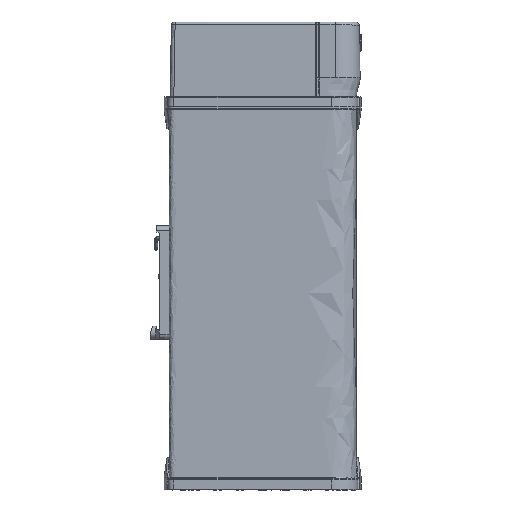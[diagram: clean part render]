
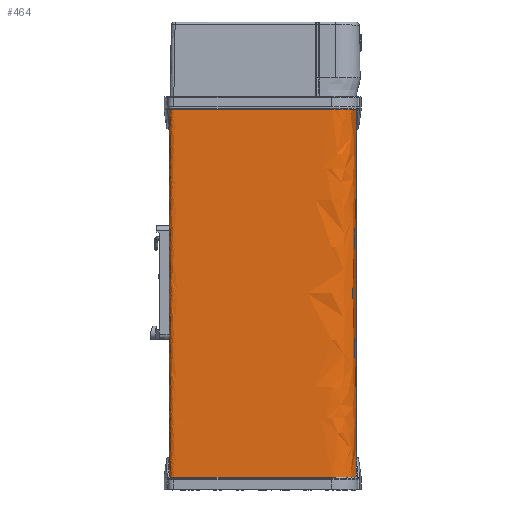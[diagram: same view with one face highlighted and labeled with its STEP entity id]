
A CAD part, left-side view. The second image highlights one B-rep face of the part: STEP entity #464.
In plain terms, the highlighted free-form (B-spline) face has degree [3, 1] with [22, 2] control points.
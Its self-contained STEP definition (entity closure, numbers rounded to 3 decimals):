
#464=ADVANCED_FACE('',(#1716),#19415,.T.);
#1716=FACE_OUTER_BOUND('',#2980,.T.);
#2980=EDGE_LOOP('',(#5492,#5493,#5494,#5495));
#5492=ORIENTED_EDGE('',*,*,#10912,.T.);
#5493=ORIENTED_EDGE('',*,*,#10880,.T.);
#5494=ORIENTED_EDGE('',*,*,#10881,.T.);
#5495=ORIENTED_EDGE('',*,*,#10903,.F.);
#10880=EDGE_CURVE('',#17228,#17229,#15470,.T.);
#10881=EDGE_CURVE('',#17229,#17240,#13748,.T.);
#10903=EDGE_CURVE('',#17239,#17240,#15483,.T.);
#10912=EDGE_CURVE('',#17239,#17228,#13760,.T.);
#13748=B_SPLINE_CURVE_WITH_KNOTS('',1,(#29648,#29649),.UNSPECIFIED.,.F.,
 .F.,(2,2),(-200.,-50.2),.UNSPECIFIED.);
#13760=B_SPLINE_CURVE_WITH_KNOTS('',1,(#29940,#29941),.UNSPECIFIED.,.F.,
 .F.,(2,2),(50.2,200.),.UNSPECIFIED.);
#15470=(
BOUNDED_CURVE()
B_SPLINE_CURVE(3,(#29626,#29627,#29628,#29629,#29630,#29631,#29632,#29633,
#29634,#29635,#29636,#29637,#29638,#29639,#29640,#29641,#29642,#29643,#29644,
#29645,#29646,#29647),.UNSPECIFIED.,.F.,.F.)
B_SPLINE_CURVE_WITH_KNOTS((4,3,3,3,3,3,3,4),(134.436,148.636,
164.344,227.344,230.486,252.686,253.157,
253.452),.UNSPECIFIED.)
CURVE()
GEOMETRIC_REPRESENTATION_ITEM()
RATIONAL_B_SPLINE_CURVE((1.,1.,1.,1.,0.805,0.805,
1.,1.,1.,1.,0.805,0.805,1.,1.,1.,1.,0.805,
0.805,1.,1.,1.,1.))
REPRESENTATION_ITEM('')
);
#15483=(
BOUNDED_CURVE()
B_SPLINE_CURVE(3,(#29821,#29822,#29823,#29824,#29825,#29826,#29827,#29828,
#29829,#29830,#29831,#29832,#29833,#29834,#29835,#29836,#29837,#29838,#29839,
#29840,#29841,#29842),.UNSPECIFIED.,.F.,.F.)
B_SPLINE_CURVE_WITH_KNOTS((4,3,3,3,3,3,3,4),(134.436,148.636,
164.344,227.344,230.486,252.686,253.157,
253.452),.UNSPECIFIED.)
CURVE()
GEOMETRIC_REPRESENTATION_ITEM()
RATIONAL_B_SPLINE_CURVE((1.,1.,1.,1.,0.805,0.805,
1.,1.,1.,1.,0.805,0.805,1.,1.,1.,1.,0.805,
0.805,1.,1.,1.,1.))
REPRESENTATION_ITEM('')
);
#17228=VERTEX_POINT('',#29604);
#17229=VERTEX_POINT('',#29605);
#17239=VERTEX_POINT('',#29615);
#17240=VERTEX_POINT('',#29616);
#19415=(
BOUNDED_SURFACE()
B_SPLINE_SURFACE(3,1,((#29305,#29306),(#29307,#29308),(#29309,#29310),(#29311,
#29312),(#29313,#29314),(#29315,#29316),(#29317,#29318),(#29319,#29320),
(#29321,#29322),(#29323,#29324),(#29325,#29326),(#29327,#29328),(#29329,
#29330),(#29331,#29332),(#29333,#29334),(#29335,#29336),(#29337,#29338),
(#29339,#29340),(#29341,#29342),(#29343,#29344),(#29345,#29346),(#29347,
#29348)),.UNSPECIFIED.,.F.,.F.,.F.)
B_SPLINE_SURFACE_WITH_KNOTS((4,3,3,3,3,3,3,4),(2,2),(-253.452,-253.157,
-252.686,-230.486,-227.344,-164.344,
-148.636,-134.436),(0.,200.),.UNSPECIFIED.)
GEOMETRIC_REPRESENTATION_ITEM()
RATIONAL_B_SPLINE_SURFACE(((1.,1.),(1.,1.),(1.,1.),(1.,1.),(0.805,
0.805),(0.805,0.805),(1.,1.),(1.,1.),
(1.,1.),(1.,1.),(0.805,0.805),(0.805,
0.805),(1.,1.),(1.,1.),(1.,1.),(1.,1.),(0.805,0.805),
(0.805,0.805),(1.,1.),(1.,1.),(1.,1.),(1.,1.)))
REPRESENTATION_ITEM('')
SURFACE()
);
#29305=CARTESIAN_POINT('',(194.416,36.897,-200.));
#29306=CARTESIAN_POINT('',(194.416,36.897,0.));
#29307=CARTESIAN_POINT('',(194.416,36.995,-200.));
#29308=CARTESIAN_POINT('',(194.416,36.995,0.));
#29309=CARTESIAN_POINT('',(194.416,37.094,-200.));
#29310=CARTESIAN_POINT('',(194.416,37.094,0.));
#29311=CARTESIAN_POINT('',(194.416,37.192,-200.));
#29312=CARTESIAN_POINT('',(194.416,37.192,0.));
#29313=CARTESIAN_POINT('',(194.416,37.368,-200.));
#29314=CARTESIAN_POINT('',(194.416,37.368,0.));
#29315=CARTESIAN_POINT('',(194.292,37.492,-200.));
#29316=CARTESIAN_POINT('',(194.292,37.492,0.));
#29317=CARTESIAN_POINT('',(194.116,37.492,-200.));
#29318=CARTESIAN_POINT('',(194.116,37.492,0.));
#29319=CARTESIAN_POINT('',(186.716,37.492,-200.));
#29320=CARTESIAN_POINT('',(186.716,37.492,0.));
#29321=CARTESIAN_POINT('',(179.316,37.492,-200.));
#29322=CARTESIAN_POINT('',(179.316,37.492,0.));
#29323=CARTESIAN_POINT('',(171.916,37.492,-200.));
#29324=CARTESIAN_POINT('',(171.916,37.492,0.));
#29325=CARTESIAN_POINT('',(170.745,37.492,-200.));
#29326=CARTESIAN_POINT('',(170.745,37.492,0.));
#29327=CARTESIAN_POINT('',(169.916,36.663,-200.));
#29328=CARTESIAN_POINT('',(169.916,36.663,0.));
#29329=CARTESIAN_POINT('',(169.916,35.492,-200.));
#29330=CARTESIAN_POINT('',(169.916,35.492,0.));
#29331=CARTESIAN_POINT('',(169.916,14.492,-200.));
#29332=CARTESIAN_POINT('',(169.916,14.492,0.));
#29333=CARTESIAN_POINT('',(169.916,-6.508,-200.));
#29334=CARTESIAN_POINT('',(169.916,-6.508,0.));
#29335=CARTESIAN_POINT('',(169.916,-27.508,-200.));
#29336=CARTESIAN_POINT('',(169.916,-27.508,0.));
#29337=CARTESIAN_POINT('',(169.916,-33.366,-200.));
#29338=CARTESIAN_POINT('',(169.916,-33.366,0.));
#29339=CARTESIAN_POINT('',(174.058,-37.508,-200.));
#29340=CARTESIAN_POINT('',(174.058,-37.508,0.));
#29341=CARTESIAN_POINT('',(179.916,-37.508,-200.));
#29342=CARTESIAN_POINT('',(179.916,-37.508,0.));
#29343=CARTESIAN_POINT('',(184.65,-37.508,-200.));
#29344=CARTESIAN_POINT('',(184.65,-37.508,0.));
#29345=CARTESIAN_POINT('',(189.383,-37.508,-200.));
#29346=CARTESIAN_POINT('',(189.383,-37.508,0.));
#29347=CARTESIAN_POINT('',(194.116,-37.508,-200.));
#29348=CARTESIAN_POINT('',(194.116,-37.508,0.));
#29604=CARTESIAN_POINT('',(194.116,-37.508,0.));
#29605=CARTESIAN_POINT('',(194.416,36.897,0.));
#29615=CARTESIAN_POINT('',(194.116,-37.508,-149.8));
#29616=CARTESIAN_POINT('',(194.416,36.897,-149.8));
#29626=CARTESIAN_POINT('',(194.116,-37.508,0.));
#29627=CARTESIAN_POINT('',(189.383,-37.508,0.));
#29628=CARTESIAN_POINT('',(184.65,-37.508,0.));
#29629=CARTESIAN_POINT('',(179.916,-37.508,0.));
#29630=CARTESIAN_POINT('',(174.058,-37.508,0.));
#29631=CARTESIAN_POINT('',(169.916,-33.366,0.));
#29632=CARTESIAN_POINT('',(169.916,-27.508,0.));
#29633=CARTESIAN_POINT('',(169.916,-6.508,0.));
#29634=CARTESIAN_POINT('',(169.916,14.492,0.));
#29635=CARTESIAN_POINT('',(169.916,35.492,0.));
#29636=CARTESIAN_POINT('',(169.916,36.663,0.));
#29637=CARTESIAN_POINT('',(170.745,37.492,0.));
#29638=CARTESIAN_POINT('',(171.916,37.492,0.));
#29639=CARTESIAN_POINT('',(179.316,37.492,0.));
#29640=CARTESIAN_POINT('',(186.716,37.492,0.));
#29641=CARTESIAN_POINT('',(194.116,37.492,0.));
#29642=CARTESIAN_POINT('',(194.292,37.492,0.));
#29643=CARTESIAN_POINT('',(194.416,37.368,0.));
#29644=CARTESIAN_POINT('',(194.416,37.192,0.));
#29645=CARTESIAN_POINT('',(194.416,37.094,0.));
#29646=CARTESIAN_POINT('',(194.416,36.995,0.));
#29647=CARTESIAN_POINT('',(194.416,36.897,0.));
#29648=CARTESIAN_POINT('',(194.416,36.897,0.));
#29649=CARTESIAN_POINT('',(194.416,36.897,-149.8));
#29821=CARTESIAN_POINT('',(194.116,-37.508,-149.8));
#29822=CARTESIAN_POINT('',(189.383,-37.508,-149.8));
#29823=CARTESIAN_POINT('',(184.65,-37.508,-149.8));
#29824=CARTESIAN_POINT('',(179.916,-37.508,-149.8));
#29825=CARTESIAN_POINT('',(174.058,-37.508,-149.8));
#29826=CARTESIAN_POINT('',(169.916,-33.366,-149.8));
#29827=CARTESIAN_POINT('',(169.916,-27.508,-149.8));
#29828=CARTESIAN_POINT('',(169.916,-6.508,-149.8));
#29829=CARTESIAN_POINT('',(169.916,14.492,-149.8));
#29830=CARTESIAN_POINT('',(169.916,35.492,-149.8));
#29831=CARTESIAN_POINT('',(169.916,36.663,-149.8));
#29832=CARTESIAN_POINT('',(170.745,37.492,-149.8));
#29833=CARTESIAN_POINT('',(171.916,37.492,-149.8));
#29834=CARTESIAN_POINT('',(179.316,37.492,-149.8));
#29835=CARTESIAN_POINT('',(186.716,37.492,-149.8));
#29836=CARTESIAN_POINT('',(194.116,37.492,-149.8));
#29837=CARTESIAN_POINT('',(194.292,37.492,-149.8));
#29838=CARTESIAN_POINT('',(194.416,37.368,-149.8));
#29839=CARTESIAN_POINT('',(194.416,37.192,-149.8));
#29840=CARTESIAN_POINT('',(194.416,37.094,-149.8));
#29841=CARTESIAN_POINT('',(194.416,36.995,-149.8));
#29842=CARTESIAN_POINT('',(194.416,36.897,-149.8));
#29940=CARTESIAN_POINT('',(194.116,-37.508,-149.8));
#29941=CARTESIAN_POINT('',(194.116,-37.508,0.));
